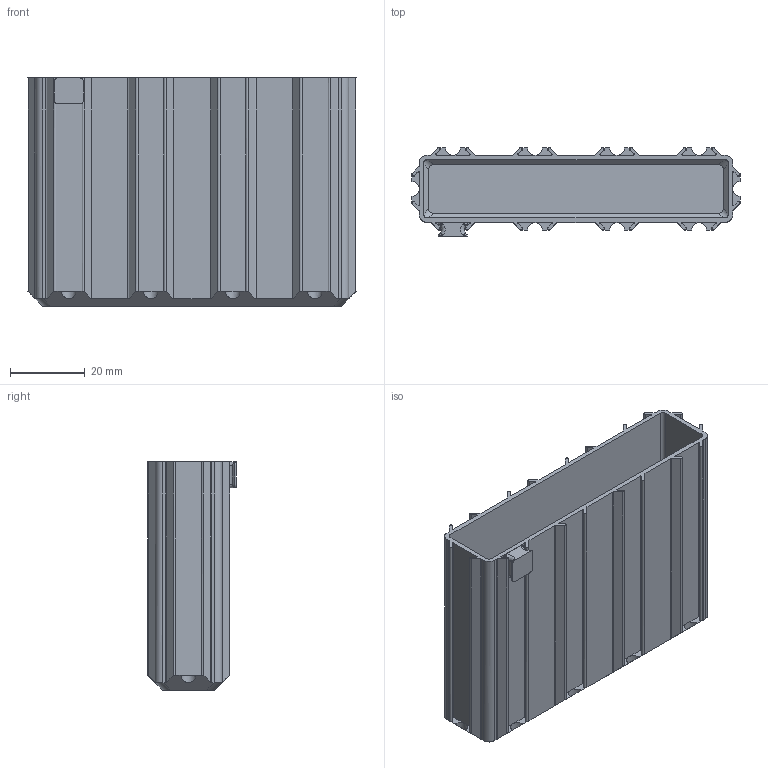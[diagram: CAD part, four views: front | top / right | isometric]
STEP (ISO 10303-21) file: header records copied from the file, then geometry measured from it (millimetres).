
FILE_DESCRIPTION(/* description */ (''),/* implementation_level */ '2;1');
FILE_NAME(/* name */ 'BOX_x04_y01_z060_tx0_ty0.stp',/* time_stamp */ '2024-02-16T08:36:39+01:00',/* author */ ('ott'),/* organization */ (''),/* preprocessor_version */ 'ST-DEVELOPER v19.2',/* originating_system */ 'Autodesk Inventor 2023',/* authorisation */ '');
FILE_SCHEMA (('AUTOMOTIVE_DESIGN { 1 0 10303 214 3 1 1 }'));
Length unit declared in the file: millimetre
Products named in the file (1): BOX_x04_y01_z060_tx0_ty0
Bounding box: 88 x 23.8 x 61.2 mm (x, y, z)
Volume: 18494 mm3; surface area: 31660.8 mm2
Topology: 2 solids, 2 shells, 207 faces, 582 edges, 380 vertices
Faces by surface type: plane 111, cylinder 92, torus 4
Entity records: 7044 total; most frequent: CARTESIAN_POINT 1254, DIRECTION 1204, ORIENTED_EDGE 1164, EDGE_CURVE 582, AXIS2_PLACEMENT_3D 422, VERTEX_POINT 380, LINE 360, VECTOR 360
